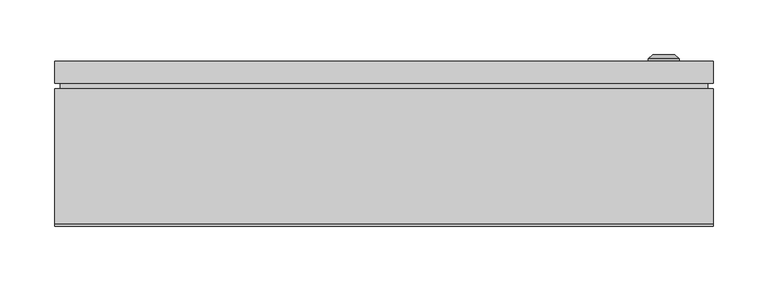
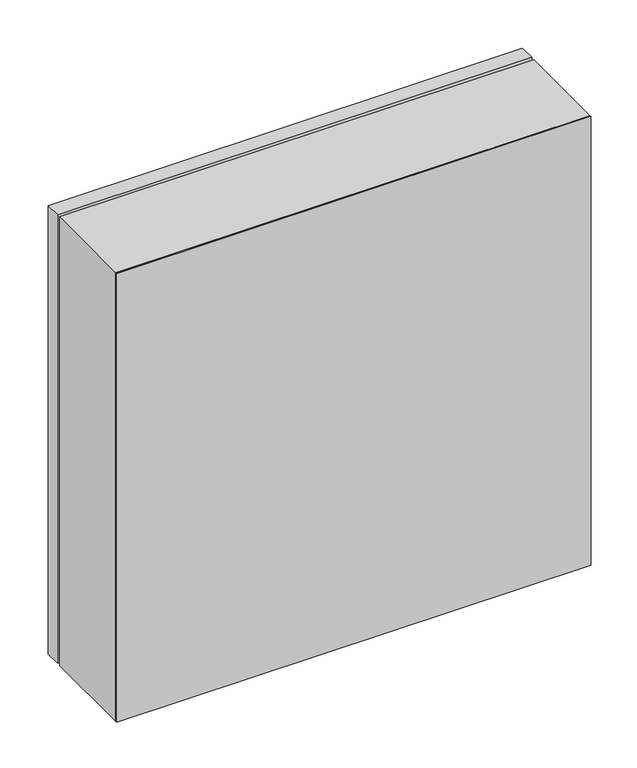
"""IFC4 building model written with IfcOpenShell, lengths in millimetres: proxy geometry, ЩМП_IP65 : ЩМП-6.6.1-0_600х600х150."""

from ifc_helpers import new_model, si_unit, frame, origin, origin_with_axes, place, context, project, spatial, polyline, circle_curve, outline, extrude, source, transform, mapped, element, save
from ifc_brep_helpers import plane_surface, cylinder_surface, revolved_surface, advanced_brep


def electrical_equipment_84ca87c8(model_context):
    return source(origin(), model_context, "Body", "SolidModel", [
        extrude(outline(polyline([(295.0, 125.0), (-295.0, 125.0), (-295.0, 130.0), (295.0, 130.0), (295.0, 125.0)])), frame((0.0, 0.0, 5.0), z_axis=(0.0, 0.0, 1.0), x_axis=(1.0, 0.0, 0.0)), (0.0, 0.0, 1.0), 590.0),
        extrude(outline(polyline([(300.0, 130.0), (-300.0, 130.0), (-300.0, 150.0), (300.0, 150.0), (300.0, 130.0)])), origin_with_axes(), (0.0, 0.0, 1.0), 600.0),
        advanced_brep(
        [(240.669873, 150.0, 300.0), (269.330127, 150.0, 300.0), (255.0, 150.0, 300.0), (240.669873, 152.366592, 300.0), (269.330127, 152.366592, 300.0), (245.0, 156.0, 300.0), (265.0, 156.0, 300.0), (253.1080471, 156.0, 300.0), (256.8919529, 156.0, 300.0), (253.1080471, 154.9822294, 300.0), (256.8919529, 154.9822294, 300.0), (255.0, 154.9822294, 300.0)],
        [
            (0, 1, circle_curve(frame((255.0, 150.0, 300.0), z_axis=(0.0, -1.0, 0.0), x_axis=(1.0, 0.0, 0.0)), 14.330127)),
            (1, 2),
            (2, 0),
            (1, 0, circle_curve(frame((255.0, 150.0, 300.0), z_axis=(0.0, -1.0, 0.0), x_axis=(1.0, 0.0, 0.0)), 14.330127)),
            (3, 4, circle_curve(frame((255.0, 152.366592, 300.0), z_axis=(0.0, -1.0, 0.0), x_axis=(1.0, 0.0, 0.0)), 14.330127)),
            (4, 1),
            (0, 3),
            (4, 3, circle_curve(frame((255.0, 152.366592, 300.0), z_axis=(0.0, -1.0, 0.0), x_axis=(1.0, 0.0, 0.0)), 14.330127)),
            (5, 6, circle_curve(frame((255.0, 156.0, 300.0), z_axis=(0.0, -1.0, 0.0), x_axis=(1.0, 0.0, 0.0)), 10.0)),
            (6, 4),
            (3, 5),
            (6, 5, circle_curve(frame((255.0, 156.0, 300.0), z_axis=(0.0, -1.0, 0.0), x_axis=(1.0, 0.0, 0.0)), 10.0)),
            (7, 8, circle_curve(frame((255.0, 156.0, 300.0), z_axis=(0.0, -1.0, 0.0), x_axis=(1.0, 0.0, 0.0)), 1.8919529)),
            (8, 6),
            (5, 7),
            (8, 7, circle_curve(frame((255.0, 156.0, 300.0), z_axis=(0.0, -1.0, 0.0), x_axis=(1.0, 0.0, 0.0)), 1.8919529)),
            (9, 10, circle_curve(frame((255.0, 154.9822294, 300.0), z_axis=(0.0, -1.0, 0.0), x_axis=(1.0, 0.0, 0.0)), 1.8919529)),
            (10, 8),
            (7, 9),
            (10, 9, circle_curve(frame((255.0, 154.9822294, 300.0), z_axis=(0.0, -1.0, 0.0), x_axis=(1.0, 0.0, 0.0)), 1.8919529)),
            (11, 10),
            (9, 11),
        ],
        [
            plane_surface(frame((255.0, 150.0, 300.0), z_axis=(0.0, -1.0, 0.0), x_axis=(1.0, 0.0, 0.0))),
            cylinder_surface(frame((255.0, 163.1348851, 300.0), z_axis=(0.0, 1.0, 0.0), x_axis=(1.0, 0.0, 0.0)), 14.330127),
            revolved_surface(polyline([(269.330127, 152.366592, 300.0), (265.0, 156.0, 300.0)]), (255.0, 163.1348851, 300.0), (0.0, 1.0, 0.0)),
            plane_surface(frame((255.0, 156.0, 300.0), z_axis=(0.0, 1.0, 0.0), x_axis=(1.0, 0.0, 0.0))),
            revolved_surface(polyline([(256.8919529, 156.0, 300.0), (256.8919529, 154.9822294, 300.0)]), (255.0, 163.1348851, 300.0), (0.0, 1.0, 0.0)),
            plane_surface(frame((255.0, 154.9822294, 300.0), z_axis=(0.0, 1.0, 0.0), x_axis=(1.0, 0.0, 0.0))),
        ],
        [
            (0, [[1, 2, 3]]),
            (0, [[4, -3, -2]]),
            (1, [[5, 6, -1, 7]]),
            (1, [[8, -7, -4, -6]]),
            (2, [[9, 10, -5, 11]]),
            (2, [[12, -11, -8, -10]]),
            (3, [[13, 14, -9, 15]]),
            (3, [[16, -15, -12, -14]]),
            (4, [[17, 18, -13, 19]]),
            (4, [[20, -19, -16, -18]]),
            (5, [[21, -17, 22]]),
            (5, [[-22, -20, -21]]),
        ],
    ),
        extrude(outline(polyline([(600.0, -300.0033905), (0.0, -300.0033905), (0.0, 299.9966095), (600.0, 299.9966095), (600.0, -300.0033905)]), holes=[polyline([(565.0, -265.0033905), (565.0, 264.9966095), (35.0, 264.9966095), (35.0, -265.0033905), (565.0, -265.0033905)])]), frame((0.0, 2.0, 0.0), z_axis=(0.0, 1.0, 0.0), x_axis=(0.0, 0.0, 1.0)), (0.0, 0.0, 1.0), 123.0),
        extrude(outline(polyline([(300.0, 0.0), (-300.0, 0.0), (-300.0, 2.0), (300.0, 2.0), (300.0, 0.0)])), origin_with_axes(), (0.0, 0.0, 1.0), 600.0),
    ])


if __name__ == "__main__":
    model = new_model("IFC4")
    model_context = context("Model", 3, world=origin())
    ifc_project = project(units=[si_unit("LENGTHUNIT", "METRE", prefix="MILLI")], contexts=[model_context])
    site = spatial("IfcSite", under=ifc_project)
    building = spatial("IfcBuilding", under=site)
    placement = place(None, origin())
    electrical_equipment_shape = electrical_equipment_84ca87c8(model_context)
    element("IfcBuildingElementProxy", 1, Name="ЩМП_IP65 : ЩМП-6.6.1-0_600х600х150", ObjectType="ЩМП_IP65 : ЩМП-6.6.1-0_600х600х150", at=placement, inside=building, context=model_context, shape_type="MappedRepresentation", body=[
        mapped(electrical_equipment_shape, transform((0.0, 0.0, 0.0), x_axis=(1.0, 0.0, 0.0), y_axis=(0.0, 1.0, 0.0), z_axis=(0.0, 0.0, 1.0))),
    ])
    save(model, "model.ifc")
